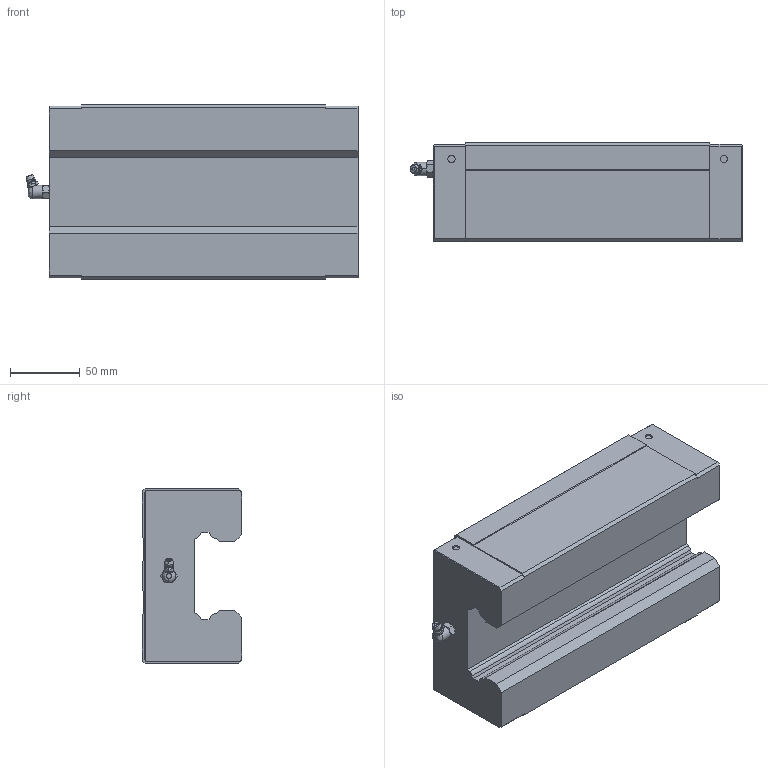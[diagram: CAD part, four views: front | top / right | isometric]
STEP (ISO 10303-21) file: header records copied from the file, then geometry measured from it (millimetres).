
FILE_DESCRIPTION (( 'STEP AP203' ), '1' );
FILE_NAME ('SHS65V.step', '2017-09-18T07:14:52', ( '' ), ( '' ), 'SwSTEP 2.0', 'SolidWorks 2017', '' );
FILE_SCHEMA (( 'CONFIG_CONTROL_DESIGN' ));
Length unit declared in the file: millimetre
Products named in the file (1): SHS65V
Bounding box: 237.7 x 71 x 126 mm (x, y, z)
Volume: 1522522.3 mm3; surface area: 122363.3 mm2
Topology: 2 solids, 2 shells, 154 faces, 398 edges, 246 vertices
Faces by surface type: plane 83, cone 40, cylinder 22, bspline 9
Entity records: 4967 total; most frequent: CARTESIAN_POINT 1256, ORIENTED_EDGE 766, DIRECTION 732, EDGE_CURVE 383, LINE 248, VECTOR 248, VERTEX_POINT 246, AXIS2_PLACEMENT_3D 242
